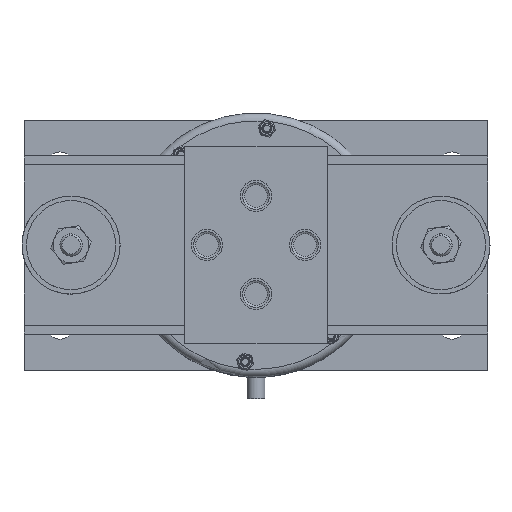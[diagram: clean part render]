
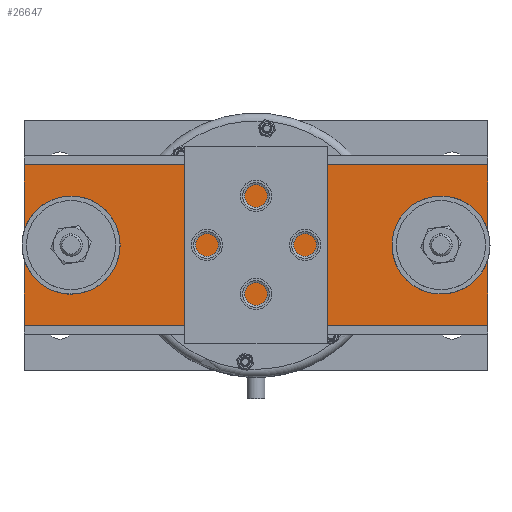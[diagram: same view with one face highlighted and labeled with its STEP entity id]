
A CAD part, top view. The second image highlights one B-rep face of the part: STEP entity #26647.
In plain terms, the highlighted planar face has unit normal (0, 0, 1).
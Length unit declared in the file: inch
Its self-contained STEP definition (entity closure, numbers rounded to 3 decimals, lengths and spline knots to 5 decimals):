
#1859=LINE('',#47193,#3295);
#1860=LINE('',#47195,#3296);
#1873=LINE('',#47217,#3309);
#1874=LINE('',#47220,#3310);
#1880=LINE('',#47229,#3316);
#1881=LINE('',#47230,#3317);
#3295=VECTOR('',#36809,1.84016);
#3296=VECTOR('',#36810,1.84016);
#3309=VECTOR('',#36829,13.);
#3310=VECTOR('',#36832,13.);
#3316=VECTOR('',#36842,1.84016);
#3317=VECTOR('',#36843,1.84016);
#4921=PLANE('',#29607);
#5621=FACE_BOUND('',#9302,.T.);
#7239=FACE_OUTER_BOUND('',#9301,.T.);
#9301=EDGE_LOOP('',(#23117,#23118,#23119,#23120,#23121,#23122,#23123,#23124,
#23125));
#9302=EDGE_LOOP('',(#23126));
#10574=CIRCLE('',#29172,1.375);
#10600=CIRCLE('',#29211,1.375);
#10601=CIRCLE('',#29212,1.375);
#10613=CIRCLE('',#29238,0.525);
#12709=VERTEX_POINT('',#45808);
#12710=VERTEX_POINT('',#45810);
#12734=VERTEX_POINT('',#45872);
#12735=VERTEX_POINT('',#45873);
#12736=VERTEX_POINT('',#45877);
#12764=VERTEX_POINT('',#45953);
#13053=VERTEX_POINT('',#47191);
#13054=VERTEX_POINT('',#47194);
#13060=VERTEX_POINT('',#47215);
#13061=VERTEX_POINT('',#47219);
#15949=EDGE_CURVE('',#12709,#12710,#10574,.T.);
#15977=EDGE_CURVE('',#12736,#12734,#10600,.T.);
#15978=EDGE_CURVE('',#12735,#12736,#10601,.T.);
#16011=EDGE_CURVE('',#12764,#12764,#10613,.T.);
#16491=EDGE_CURVE('',#12709,#13053,#1859,.T.);
#16492=EDGE_CURVE('',#13054,#12710,#1860,.T.);
#16505=EDGE_CURVE('',#13060,#13053,#1873,.T.);
#16506=EDGE_CURVE('',#13061,#13054,#1874,.T.);
#16512=EDGE_CURVE('',#12735,#13061,#1880,.T.);
#16513=EDGE_CURVE('',#13060,#12734,#1881,.T.);
#23117=ORIENTED_EDGE('',*,*,#15949,.F.);
#23118=ORIENTED_EDGE('',*,*,#16491,.T.);
#23119=ORIENTED_EDGE('',*,*,#16505,.F.);
#23120=ORIENTED_EDGE('',*,*,#16513,.T.);
#23121=ORIENTED_EDGE('',*,*,#15977,.F.);
#23122=ORIENTED_EDGE('',*,*,#15978,.F.);
#23123=ORIENTED_EDGE('',*,*,#16512,.T.);
#23124=ORIENTED_EDGE('',*,*,#16506,.T.);
#23125=ORIENTED_EDGE('',*,*,#16492,.T.);
#23126=ORIENTED_EDGE('',*,*,#16011,.F.);
#26647=ADVANCED_FACE('',(#7239,#5621),#4921,.T.);
#29172=AXIS2_PLACEMENT_3D('',#45811,#35701,#35702);
#29211=AXIS2_PLACEMENT_3D('',#45878,#35781,#35782);
#29212=AXIS2_PLACEMENT_3D('',#45879,#35783,#35784);
#29238=AXIS2_PLACEMENT_3D('',#45954,#35856,#35857);
#29607=AXIS2_PLACEMENT_3D('',#47232,#36845,#36846);
#35701=DIRECTION('center_axis',(0.,0.,
1.));
#35702=DIRECTION('ref_axis',(0.985,-0.173,0.));
#35781=DIRECTION('center_axis',(0.,0.,
1.));
#35782=DIRECTION('ref_axis',(0.256,0.967,0.));
#35783=DIRECTION('center_axis',(0.,0.,
1.));
#35784=DIRECTION('ref_axis',(0.256,0.967,0.));
#35856=DIRECTION('center_axis',(0.,0.,
1.));
#35857=DIRECTION('ref_axis',(-0.89,-0.456,0.));
#36809=DIRECTION('',(0.,-1.,0.));
#36810=DIRECTION('',(0.,-1.,0.));
#36829=DIRECTION('',(-1.,0.,0.));
#36832=DIRECTION('',(-1.,0.,0.));
#36842=DIRECTION('',(0.,1.,0.));
#36843=DIRECTION('',(0.,1.,0.));
#36845=DIRECTION('center_axis',(0.,0.,
1.));
#36846=DIRECTION('ref_axis',(-1.,0.,0.));
#45808=CARTESIAN_POINT('',(-5.76489,-0.76013,8.125));
#45810=CARTESIAN_POINT('',(-5.76489,0.05955,8.125));
#45811=CARTESIAN_POINT('Origin',(-4.45239,-0.35029,8.125));
#45872=CARTESIAN_POINT('',(7.23511,-0.76013,8.125));
#45873=CARTESIAN_POINT('',(7.23511,0.05955,8.125));
#45877=CARTESIAN_POINT('',(5.57122,-1.67963,8.125));
#45878=CARTESIAN_POINT('Origin',(5.92261,-0.35029,8.125));
#45879=CARTESIAN_POINT('Origin',(5.92261,-0.35029,8.125));
#45953=CARTESIAN_POINT('',(1.20229,-0.11078,8.125));
#45954=CARTESIAN_POINT('Origin',(0.73511,-0.35029,8.125));
#47191=CARTESIAN_POINT('',(-5.76489,-2.60029,8.125));
#47193=CARTESIAN_POINT('',(-5.76489,-2.60029,8.125));
#47194=CARTESIAN_POINT('',(-5.76489,1.89971,8.125));
#47195=CARTESIAN_POINT('',(-5.76489,-2.60029,8.125));
#47215=CARTESIAN_POINT('',(7.23511,-2.60029,8.125));
#47217=CARTESIAN_POINT('',(0.73511,-2.60029,8.125));
#47219=CARTESIAN_POINT('',(7.23511,1.89971,8.125));
#47220=CARTESIAN_POINT('',(0.73511,1.89971,8.125));
#47229=CARTESIAN_POINT('',(7.23511,-2.60029,8.125));
#47230=CARTESIAN_POINT('',(7.23511,-2.60029,8.125));
#47232=CARTESIAN_POINT('Origin',(0.73511,1.89971,8.125));
